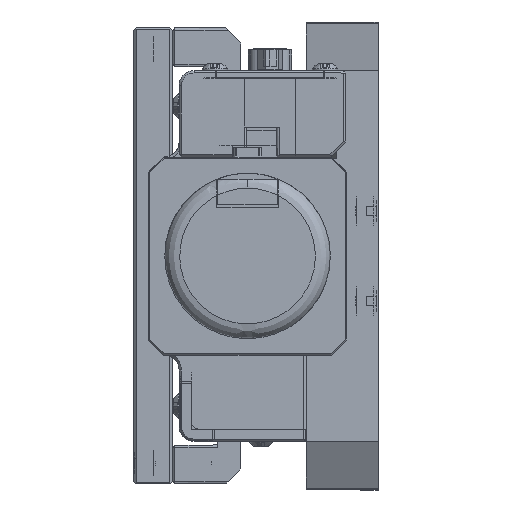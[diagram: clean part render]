
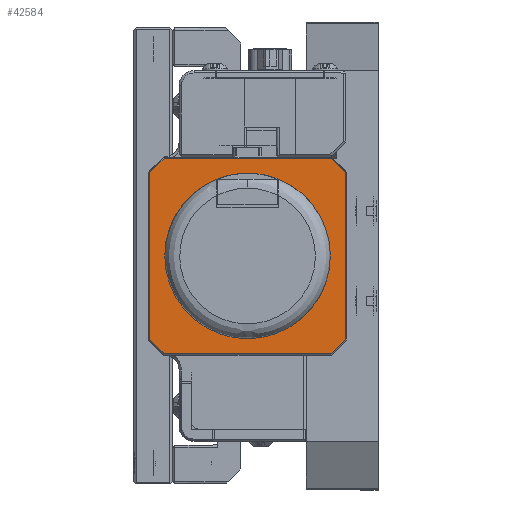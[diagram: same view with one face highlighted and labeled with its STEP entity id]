
A CAD part, left-side view. The second image highlights one B-rep face of the part: STEP entity #42584.
In plain terms, the highlighted planar face has unit normal (-1, 0, 0).
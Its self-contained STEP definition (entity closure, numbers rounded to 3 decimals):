
#302 = CARTESIAN_POINT ( 'NONE',  ( -120.65, 8.435, 58.431 ) ) ;
#576 = LINE ( 'NONE', #73390, #15868 ) ;
#701 = AXIS2_PLACEMENT_3D ( 'NONE', #41168, #40359, #40256 ) ;
#997 = ORIENTED_EDGE ( 'NONE', *, *, #68909, .F. ) ;
#1046 = DIRECTION ( 'NONE',  ( 0., -0.707, -0.707 ) ) ;
#2981 = CARTESIAN_POINT ( 'NONE',  ( -120.65, 9.948, 59.944 ) ) ;
#4812 = ORIENTED_EDGE ( 'NONE', *, *, #67318, .F. ) ;
#7284 = LINE ( 'NONE', #302, #57656 ) ;
#10454 = CARTESIAN_POINT ( 'NONE',  ( -120.65, 6.922, 56.918 ) ) ;
#13900 = ORIENTED_EDGE ( 'NONE', *, *, #67580, .F. ) ;
#15400 = FACE_OUTER_BOUND ( 'NONE', #79634, .T. ) ;
#15868 = VECTOR ( 'NONE', #70002, 1000. ) ;
#16987 = DIRECTION ( 'NONE',  ( 0., 0., -1. ) ) ;
#17260 = CARTESIAN_POINT ( 'NONE',  ( -120.65, 6.922, 60.198 ) ) ;
#18216 = ORIENTED_EDGE ( 'NONE', *, *, #72681, .F. ) ;
#18855 = VECTOR ( 'NONE', #62494, 1000. ) ;
#20930 = LINE ( 'NONE', #62773, #18855 ) ;
#21906 = LINE ( 'NONE', #53748, #74106 ) ;
#25923 = VECTOR ( 'NONE', #16987, 1000. ) ;
#27973 = VERTEX_POINT ( 'NONE', #10454 ) ;
#29229 = LINE ( 'NONE', #79239, #61964 ) ;
#34870 = DIRECTION ( 'NONE',  ( 0., -0.707, 0.707 ) ) ;
#35255 = CARTESIAN_POINT ( 'NONE',  ( -120.65, 25.855, 79.386 ) ) ;
#36487 = CARTESIAN_POINT ( 'NONE',  ( -120.65, 45.297, 59.944 ) ) ;
#40256 = DIRECTION ( 'NONE',  ( 0., -1., 0. ) ) ;
#40359 = DIRECTION ( 'NONE',  ( -1., 0., 0. ) ) ;
#40476 = PLANE ( 'NONE',  #701 ) ;
#41168 = CARTESIAN_POINT ( 'NONE',  ( -120.65, 6.668, 60.198 ) ) ;
#42584 = ADVANCED_FACE ( 'NONE', ( #15400 ), #40476, .T. ) ;
#45485 = LINE ( 'NONE', #17260, #25923 ) ;
#45830 = VERTEX_POINT ( 'NONE', #2981 ) ;
#46523 = CARTESIAN_POINT ( 'NONE',  ( -120.65, 6.922, 21.568 ) ) ;
#46905 = VERTEX_POINT ( 'NONE', #57281 ) ;
#48329 = VERTEX_POINT ( 'NONE', #81440 ) ;
#48425 = VERTEX_POINT ( 'NONE', #76270 ) ;
#49151 = VERTEX_POINT ( 'NONE', #46523 ) ;
#49381 = VERTEX_POINT ( 'NONE', #36487 ) ;
#49396 = ORIENTED_EDGE ( 'NONE', *, *, #70638, .F. ) ;
#50456 = VERTEX_POINT ( 'NONE', #66324 ) ;
#53351 = DIRECTION ( 'NONE',  ( 0., 0.707, -0.707 ) ) ;
#53748 = CARTESIAN_POINT ( 'NONE',  ( -120.65, -12.52, 41.01 ) ) ;
#57079 = ORIENTED_EDGE ( 'NONE', *, *, #68555, .F. ) ;
#57281 = CARTESIAN_POINT ( 'NONE',  ( -120.65, 48.324, 21.568 ) ) ;
#57656 = VECTOR ( 'NONE', #1046, 1000. ) ;
#58879 = VECTOR ( 'NONE', #34870, 1000. ) ;
#59540 = ORIENTED_EDGE ( 'NONE', *, *, #69662, .F. ) ;
#59803 = ORIENTED_EDGE ( 'NONE', *, *, #66319, .F. ) ;
#60950 = LINE ( 'NONE', #35255, #58879 ) ;
#61964 = VECTOR ( 'NONE', #80949, 1000. ) ;
#62494 = DIRECTION ( 'NONE',  ( 0., 1., 0. ) ) ;
#62773 = CARTESIAN_POINT ( 'NONE',  ( -120.65, 6.668, 18.542 ) ) ;
#63662 = VECTOR ( 'NONE', #78522, 1000. ) ;
#66319 = EDGE_CURVE ( 'NONE', #48425, #46905, #29229, .T. ) ;
#66324 = CARTESIAN_POINT ( 'NONE',  ( -120.65, 48.324, 56.918 ) ) ;
#67318 = EDGE_CURVE ( 'NONE', #48329, #48425, #20930, .T. ) ;
#67580 = EDGE_CURVE ( 'NONE', #49151, #48329, #21906, .T. ) ;
#68555 = EDGE_CURVE ( 'NONE', #27973, #49151, #45485, .T. ) ;
#68909 = EDGE_CURVE ( 'NONE', #45830, #27973, #7284, .T. ) ;
#69662 = EDGE_CURVE ( 'NONE', #49381, #45830, #576, .T. ) ;
#70002 = DIRECTION ( 'NONE',  ( 0., -1., 0. ) ) ;
#70638 = EDGE_CURVE ( 'NONE', #50456, #49381, #60950, .T. ) ;
#72681 = EDGE_CURVE ( 'NONE', #46905, #50456, #80931, .T. ) ;
#73390 = CARTESIAN_POINT ( 'NONE',  ( -120.65, 6.668, 59.944 ) ) ;
#74106 = VECTOR ( 'NONE', #53351, 1000. ) ;
#76270 = CARTESIAN_POINT ( 'NONE',  ( -120.65, 45.297, 18.542 ) ) ;
#77691 = CARTESIAN_POINT ( 'NONE',  ( -120.65, 48.324, 18.288 ) ) ;
#78522 = DIRECTION ( 'NONE',  ( 0., 0., 1. ) ) ;
#79239 = CARTESIAN_POINT ( 'NONE',  ( -120.65, 46.81, 20.055 ) ) ;
#79634 = EDGE_LOOP ( 'NONE', ( #59803, #4812, #13900, #57079, #997, #59540, #49396, #18216 ) ) ;
#80931 = LINE ( 'NONE', #77691, #63662 ) ;
#80949 = DIRECTION ( 'NONE',  ( 0., 0.707, 0.707 ) ) ;
#81440 = CARTESIAN_POINT ( 'NONE',  ( -120.65, 9.948, 18.542 ) ) ;
